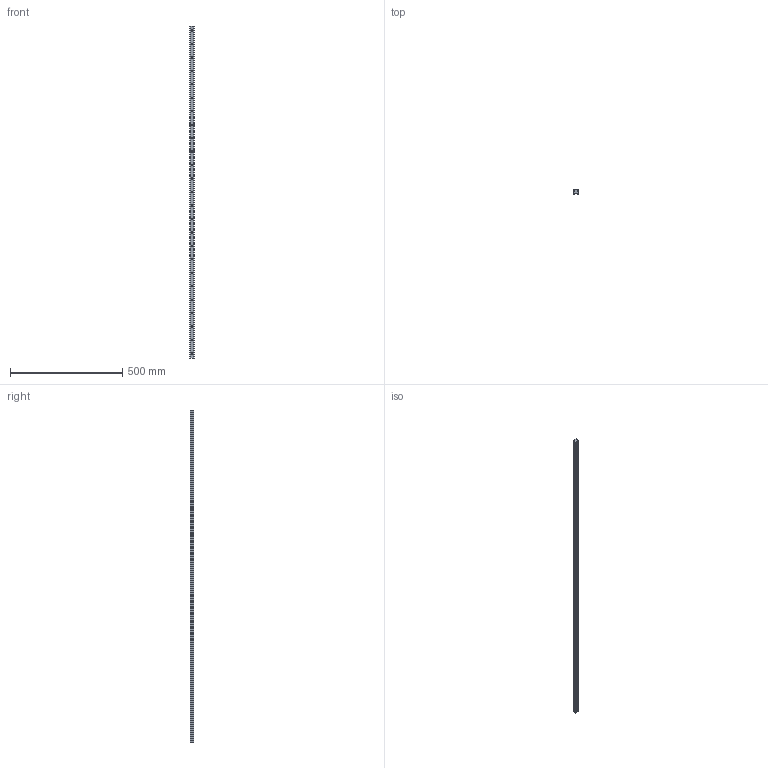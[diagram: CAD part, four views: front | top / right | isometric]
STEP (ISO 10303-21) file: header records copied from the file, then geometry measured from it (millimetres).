
FILE_DESCRIPTION (( 'STEP AP203' ), '1' );
FILE_NAME ('L1016.BL20-1480.step', '2019-06-12T11:49:33', ( '' ), ( '' ), 'SwSTEP 2.0', 'SolidWorks 2017', '' );
FILE_SCHEMA (( 'CONFIG_CONTROL_DESIGN' ));
Length unit declared in the file: millimetre
Products named in the file (1): L1016.BL20-1480
Bounding box: 20 x 16.3 x 1480 mm (x, y, z)
Volume: 411267.2 mm3; surface area: 119388.6 mm2
Topology: 1 solids, 1 shells, 151 faces, 372 edges, 248 vertices
Faces by surface type: cylinder 104, plane 47
Entity records: 4751 total; most frequent: DIRECTION 884, CARTESIAN_POINT 772, ORIENTED_EDGE 744, EDGE_CURVE 372, AXIS2_PLACEMENT_3D 360, VERTEX_POINT 248, EDGE_LOOP 226, CIRCLE 208
